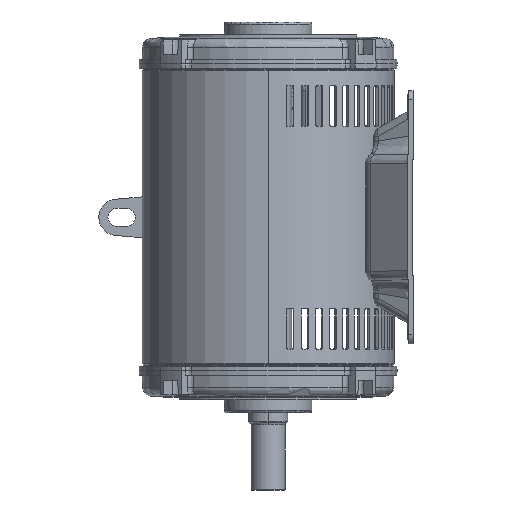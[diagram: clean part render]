
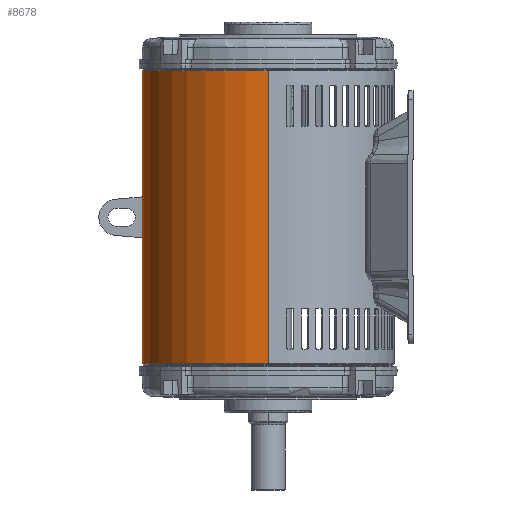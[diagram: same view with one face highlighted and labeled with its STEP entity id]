
A CAD part, left-side view. The second image highlights one B-rep face of the part: STEP entity #8678.
In plain terms, the highlighted cylindrical face has radius 176.042 mm (diameter 352.085 mm), a partial arc.
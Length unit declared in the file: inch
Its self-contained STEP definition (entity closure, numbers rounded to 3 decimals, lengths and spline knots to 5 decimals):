
#2191=CARTESIAN_POINT('',(0.,0.,8.06072));
#2192=DIRECTION('',(0.,0.,1.));
#2193=DIRECTION('',(1.,0.,0.));
#2194=AXIS2_PLACEMENT_3D('',#2191,#2192,#2193);
#2196=CARTESIAN_POINT('',(0.,0.,8.06072));
#2197=DIRECTION('',(0.,0.,1.));
#2198=DIRECTION('',(0.,1.,0.));
#2199=AXIS2_PLACEMENT_3D('',#2196,#2197,#2198);
#2201=CARTESIAN_POINT('',(-6.9308,0.,
-3.40964));
#2202=CARTESIAN_POINT('',(-6.9308,0.07729,
-3.40964));
#2203=CARTESIAN_POINT('',(-6.9282,0.23942,
-3.40872));
#2204=CARTESIAN_POINT('',(-6.91435,0.50312,
-3.40311));
#2205=CARTESIAN_POINT('',(-6.88762,0.79206,
-3.39299));
#2206=CARTESIAN_POINT('',(-6.84439,1.10804,
-3.37706));
#2207=CARTESIAN_POINT('',(-6.80135,1.33887,
-3.36153));
#2208=CARTESIAN_POINT('',(-6.77555,1.45874,
-3.352));
#2210=CARTESIAN_POINT('',(-6.77555,1.45874,
-3.352));
#2211=CARTESIAN_POINT('',(-6.76463,1.50945,
-3.34797));
#2212=CARTESIAN_POINT('',(-6.74209,1.60875,
-3.35205));
#2213=CARTESIAN_POINT('',(-6.70523,1.75585,
-3.39431));
#2214=CARTESIAN_POINT('',(-6.6693,1.88724,
-3.47036));
#2215=CARTESIAN_POINT('',(-6.63704,1.99728,
-3.57573));
#2216=CARTESIAN_POINT('',(-6.61157,2.07961,
-3.70387));
#2217=CARTESIAN_POINT('',(-6.59525,2.13051,
-3.84859));
#2218=CARTESIAN_POINT('',(-6.59154,2.14186,
-3.94823));
#2219=CARTESIAN_POINT('',(-6.59154,2.14186,
-3.9995));
#2221=DIRECTION('',(0.,0.,-1.));
#2222=VECTOR('',#2221,3.);
#2223=CARTESIAN_POINT('',(-6.59154,2.14186,
-3.9995));
#2224=LINE('',#2223,#2222);
#2225=CARTESIAN_POINT('',(-6.59154,2.14186,
-6.9995));
#2226=CARTESIAN_POINT('',(-6.59153,2.14187,
-7.05044));
#2227=CARTESIAN_POINT('',(-6.5952,2.13065,
-7.14962));
#2228=CARTESIAN_POINT('',(-6.6115,2.07982,
-7.29479));
#2229=CARTESIAN_POINT('',(-6.63694,1.99758,
-7.42286));
#2230=CARTESIAN_POINT('',(-6.66921,1.88759,
-7.52841));
#2231=CARTESIAN_POINT('',(-6.70516,1.75611,
-7.60454));
#2232=CARTESIAN_POINT('',(-6.74199,1.60915,
-7.64692));
#2233=CARTESIAN_POINT('',(-6.7646,1.50959,
-7.65105));
#2234=CARTESIAN_POINT('',(-6.77556,1.4587,
-7.647));
#2236=CARTESIAN_POINT('',(-6.77556,1.4587,
-7.647));
#2237=CARTESIAN_POINT('',(-6.8015,1.33818,
-7.63742));
#2238=CARTESIAN_POINT('',(-6.84466,1.1064,
-7.62183));
#2239=CARTESIAN_POINT('',(-6.88782,0.79032,
-7.60594));
#2240=CARTESIAN_POINT('',(-6.91443,0.50194,
-7.59587));
#2241=CARTESIAN_POINT('',(-6.92821,0.23911,
-7.59028));
#2242=CARTESIAN_POINT('',(-6.9308,0.07722,
-7.58936));
#2243=CARTESIAN_POINT('',(-6.9308,0.,
-7.58936));
#2245=CARTESIAN_POINT('',(0.,0.,-8.06172));
#2246=DIRECTION('',(0.,0.,1.));
#2247=DIRECTION('',(0.,1.,0.));
#2248=AXIS2_PLACEMENT_3D('',#2245,#2246,#2247);
#2250=CARTESIAN_POINT('',(0.,0.,-8.06172));
#2251=DIRECTION('',(0.,0.,1.));
#2252=DIRECTION('',(1.,0.,0.));
#2253=AXIS2_PLACEMENT_3D('',#2250,#2251,#2252);
#2255=DIRECTION('',(0.,0.,1.));
#2256=VECTOR('',#2255,16.12245);
#2257=CARTESIAN_POINT('',(6.9308,0.,-8.06172));
#2258=LINE('',#2257,#2256);
#2279=DIRECTION('',(0.,0.,1.));
#2280=VECTOR('',#2279,0.47236);
#2281=CARTESIAN_POINT('',(-6.9308,0.,-8.06172));
#2282=LINE('',#2281,#2280);
#2325=CARTESIAN_POINT('',(-6.9308,0.,
-3.40964));
#2327=DIRECTION('',(0.,0.,1.));
#2328=VECTOR('',#2327,11.47036);
#2329=CARTESIAN_POINT('',(-6.9308,0.,
-3.40964));
#2330=LINE('',#2329,#2328);
#6479=CARTESIAN_POINT('',(6.9308,0.,8.06072));
#6480=CARTESIAN_POINT('',(0.,6.9308,8.06072));
#6481=VERTEX_POINT('',#6479);
#6482=VERTEX_POINT('',#6480);
#6483=CARTESIAN_POINT('',(-6.9308,0.,8.06072));
#6484=VERTEX_POINT('',#6483);
#6489=CARTESIAN_POINT('',(6.9308,0.,-8.06172));
#6490=VERTEX_POINT('',#6489);
#6513=CARTESIAN_POINT('',(0.,6.9308,-8.06172));
#6514=VERTEX_POINT('',#6513);
#6515=CARTESIAN_POINT('',(-6.9308,0.,-8.06172));
#6516=VERTEX_POINT('',#6515);
#6608=VERTEX_POINT('',#2210);
#6609=VERTEX_POINT('',#2219);
#6612=CARTESIAN_POINT('',(-6.59154,2.14186,
-6.9995));
#6613=VERTEX_POINT('',#6612);
#6616=VERTEX_POINT('',#2234);
#6618=VERTEX_POINT('',#2243);
#6630=VERTEX_POINT('',#2325);
#8648=CARTESIAN_POINT('',(0.,0.,-8.4375));
#8649=DIRECTION('',(0.,0.,1.));
#8650=DIRECTION('',(1.,0.,0.));
#8651=AXIS2_PLACEMENT_3D('',#8648,#8649,#8650);
#8652=CYLINDRICAL_SURFACE('',#8651,6.9308);
#8654=ORIENTED_EDGE('',*,*,#8653,.T.);
#8655=ORIENTED_EDGE('',*,*,#8636,.T.);
#8657=ORIENTED_EDGE('',*,*,#8656,.F.);
#8659=ORIENTED_EDGE('',*,*,#8658,.T.);
#8661=ORIENTED_EDGE('',*,*,#8660,.T.);
#8663=ORIENTED_EDGE('',*,*,#8662,.T.);
#8665=ORIENTED_EDGE('',*,*,#8664,.T.);
#8667=ORIENTED_EDGE('',*,*,#8666,.T.);
#8669=ORIENTED_EDGE('',*,*,#8668,.F.);
#8671=ORIENTED_EDGE('',*,*,#8670,.F.);
#8673=ORIENTED_EDGE('',*,*,#8672,.F.);
#8675=ORIENTED_EDGE('',*,*,#8674,.T.);
#8676=EDGE_LOOP('',(#8654,#8655,#8657,#8659,#8661,#8663,#8665,#8667,#8669,#8671,
#8673,#8675));
#8677=FACE_OUTER_BOUND('',#8676,.F.);
#8678=ADVANCED_FACE('',(#8677),#8652,.T.);
#2195=CIRCLE('',#2194,6.9308);
#2200=CIRCLE('',#2199,6.9308);
#2209=B_SPLINE_CURVE_WITH_KNOTS('',3,(#2201,#2202,#2203,#2204,#2205,#2206,#2207,
#2208),.UNSPECIFIED.,.F.,.F.,(4,1,1,1,1,4),(0.,0.2,0.4,0.6,0.8,1.),
.UNSPECIFIED.);
#2220=B_SPLINE_CURVE_WITH_KNOTS('',3,(#2210,#2211,#2212,#2213,#2214,#2215,#2216,
#2217,#2218,#2219),.UNSPECIFIED.,.F.,.F.,(4,1,1,1,1,1,1,4),(0.,
0.14286,0.28571,0.42857,0.57143,
0.71429,0.85714,1.),.UNSPECIFIED.);
#2235=B_SPLINE_CURVE_WITH_KNOTS('',3,(#2225,#2226,#2227,#2228,#2229,#2230,#2231,
#2232,#2233,#2234),.UNSPECIFIED.,.F.,.F.,(4,1,1,1,1,1,1,4),(0.,
0.14286,0.28571,0.42857,0.57143,
0.71429,0.85714,1.),.UNSPECIFIED.);
#2244=B_SPLINE_CURVE_WITH_KNOTS('',3,(#2236,#2237,#2238,#2239,#2240,#2241,#2242,
#2243),.UNSPECIFIED.,.F.,.F.,(4,1,1,1,1,4),(0.,0.2,0.4,0.6,0.8,1.),
.UNSPECIFIED.);
#2249=CIRCLE('',#2248,6.9308);
#2254=CIRCLE('',#2253,6.9308);
#8636=EDGE_CURVE('',#6482,#6484,#2200,.T.);
#8653=EDGE_CURVE('',#6481,#6482,#2195,.T.);
#8656=EDGE_CURVE('',#6630,#6484,#2330,.T.);
#8658=EDGE_CURVE('',#6630,#6608,#2209,.T.);
#8660=EDGE_CURVE('',#6608,#6609,#2220,.T.);
#8662=EDGE_CURVE('',#6609,#6613,#2224,.T.);
#8664=EDGE_CURVE('',#6613,#6616,#2235,.T.);
#8666=EDGE_CURVE('',#6616,#6618,#2244,.T.);
#8668=EDGE_CURVE('',#6516,#6618,#2282,.T.);
#8670=EDGE_CURVE('',#6514,#6516,#2249,.T.);
#8672=EDGE_CURVE('',#6490,#6514,#2254,.T.);
#8674=EDGE_CURVE('',#6490,#6481,#2258,.T.);
